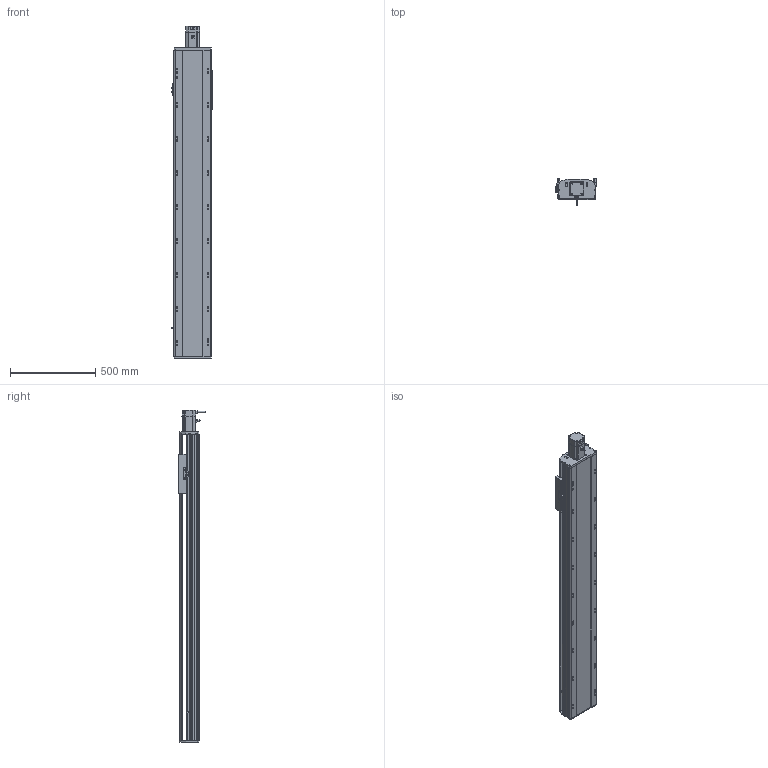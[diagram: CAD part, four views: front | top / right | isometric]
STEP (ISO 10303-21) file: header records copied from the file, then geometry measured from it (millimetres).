
FILE_DESCRIPTION (( 'STEP AP214' ), '1' );
FILE_NAME ('RTH22-XX-1400-E-M75-C4.STEP', '2025-10-24T10:49:42', ( 'Microsoft' ), ( 'Microsoft' ), 'SwSTEP 2.0', 'SolidWorks 2018', '' );
FILE_SCHEMA (( 'AUTOMOTIVE_DESIGN' ));
Length unit declared in the file: millimetre
Products named in the file (9): RTH22-XX-1400-E-M75-C4; N_RTH22-E-011菁釱^RTH22-XX-XX-E-M75-C4; N_RTH22-GY-001耜裔^RTH22-XX-XX-E-M75-C4; N_RTH22-GY-013外置感应片^RTH22-XX-XX-E-M75-C4; N_OMRON EE-SX672 传感器^RTH22-XX-XX-E-M75-C4; N_RTH22-E-007奻裔^RTH22-XX-XX-E-M75-C4; N_RTH22-E-004-SFS25賑釱^RTH22-XX-XX-E-M75-C4; N_750W萇儂^RTH22-XX-XX-E-M75-C4; N_RTH22-E-008萇儂啣^RTH22-XX-XX-E-M75-C4
Assembly tree (10 placements, depth 2):
  RTH22-XX-1400-E-M75-C4
    N_RTH22-E-011菁釱^RTH22-XX-XX-E-M75-C4
    N_RTH22-GY-001耜裔^RTH22-XX-XX-E-M75-C4
    N_RTH22-E-008萇儂啣^RTH22-XX-XX-E-M75-C4
    N_RTH22-E-007奻裔^RTH22-XX-XX-E-M75-C4
    N_RTH22-GY-013外置感应片^RTH22-XX-XX-E-M75-C4
    N_RTH22-E-004-SFS25賑釱^RTH22-XX-XX-E-M75-C4
    N_750W萇儂^RTH22-XX-XX-E-M75-C4
    N_OMRON EE-SX672 传感器^RTH22-XX-XX-E-M75-C4  x3
Bounding box: 238.5 x 160.7 x 1949 mm (x, y, z)
Volume: 24109823.2 mm3; surface area: 2470087.2 mm2
Topology: 10 solids, 10 shells, 1577 faces, 4324 edges, 2789 vertices
Faces by surface type: plane 760, cylinder 472, bspline 279, cone 66
Entity records: 39947 total; most frequent: CARTESIAN_POINT 12441, ORIENTED_EDGE 5608, DIRECTION 5310, EDGE_CURVE 2804, VERTEX_POINT 1825, AXIS2_PLACEMENT_3D 1806, VECTOR 1698, LINE 1698
